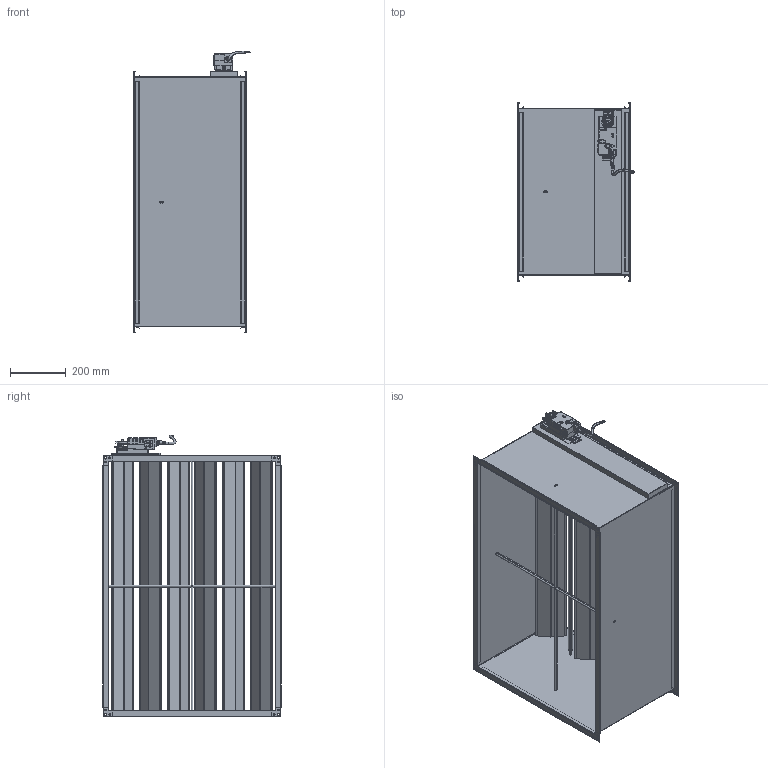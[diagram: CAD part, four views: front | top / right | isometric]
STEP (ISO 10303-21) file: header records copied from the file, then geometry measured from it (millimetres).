
FILE_DESCRIPTION (( 'STEP AP214' ), '1' );
FILE_NAME ('VAV-S900600.STEP', '2025-05-08T12:13:01', ( '' ), ( '' ), 'SwSTEP 2.0', 'SolidWorks 2025', '' );
FILE_SCHEMA (( 'AUTOMOTIVE_DESIGN' ));
Length unit declared in the file: millimetre
Products named in the file (1): VAV-S900600
Bounding box: 420.01 x 641 x 1013.69 mm (x, y, z)
Surface area: 4880654.3 mm2 (no closed solid volume)
Topology: 0 solids, 48 shells, 2114 faces, 5530 edges, 3522 vertices
Faces by surface type: plane 1547, cylinder 514, bspline 24, sphere 18, cone 10, torus 1
Full cylindrical faces by diameter (mm): 1 x4, 6 x17, 8 x1, 9 x8, 11 x1, 20 x1, 21 x2
Entity records: 92648 total; most frequent: CARTESIAN_POINT 41734, ORIENTED_EDGE 10849, DIRECTION 7032, EDGE_CURVE 5448, VERTEX_POINT 3497, B_SPLINE_CURVE_WITH_KNOTS 3170, AXIS2_PLACEMENT_3D 2675, EDGE_LOOP 2322
